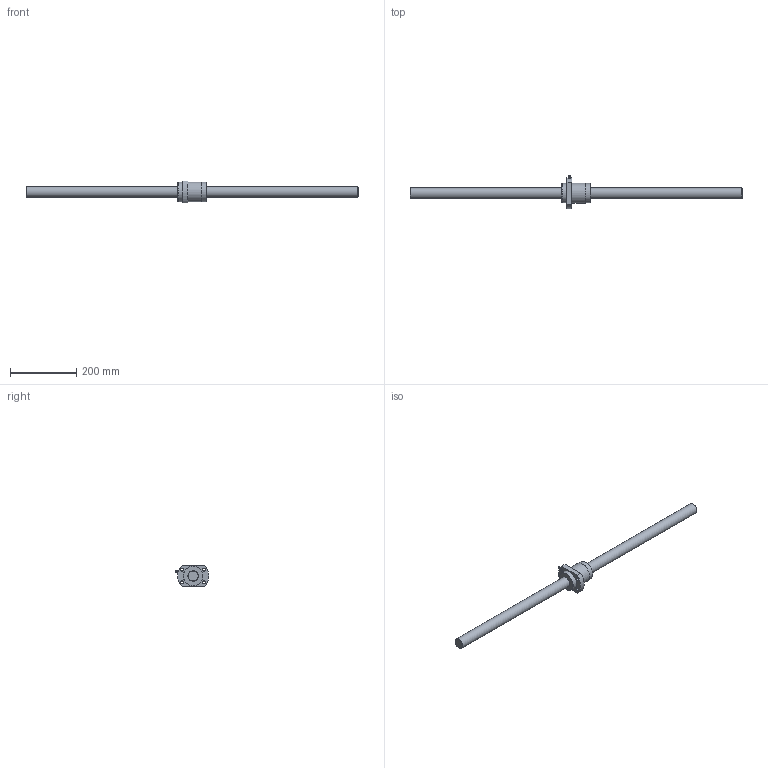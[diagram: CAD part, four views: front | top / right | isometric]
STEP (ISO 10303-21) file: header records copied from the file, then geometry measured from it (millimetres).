
FILE_DESCRIPTION((''),'2;1');
FILE_NAME('D:\製品 (図面)\カタログ用3D\ネジ関連\STEP形式\RBSW\RBSW3264-1000.stp','2010-06-02T14:47:31',('Tsuchiya'),(''),'Autodesk Inventor 10','Autodesk Inventor 10','');
FILE_SCHEMA(('AUTOMOTIVE_DESIGN { 1 0 10303 214 1 1 1 1 }'));
Length unit declared in the file: millimetre
Products named in the file (3): RBSW3264-1000; RBSW3264-10001; RBSW3264-10002
Assembly tree (2 placements, depth 2):
  RBSW3264-1000
    RBSW3264-10001
    RBSW3264-10002
Bounding box: 1000 x 100.74 x 66 mm (x, y, z)
Volume: 1012064.3 mm3; surface area: 138907 mm2
Topology: 3 solids, 3 shells, 36 faces, 76 edges, 49 vertices
Faces by surface type: plane 12, cylinder 8, cone 7, bspline 6, sphere 3
Full cylindrical faces by diameter (mm): 7 x1, 32 x2, 59 x2, 60 x1
Entity records: 1026 total; most frequent: CARTESIAN_POINT 300, DIRECTION 150, ORIENTED_EDGE 92, AXIS2_PLACEMENT_3D 70, EDGE_LOOP 70, EDGE_CURVE 46, VERTEX_POINT 40, CIRCLE 36
